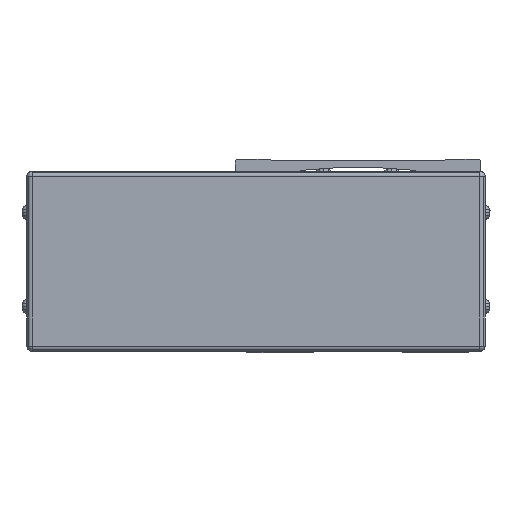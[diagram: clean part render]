
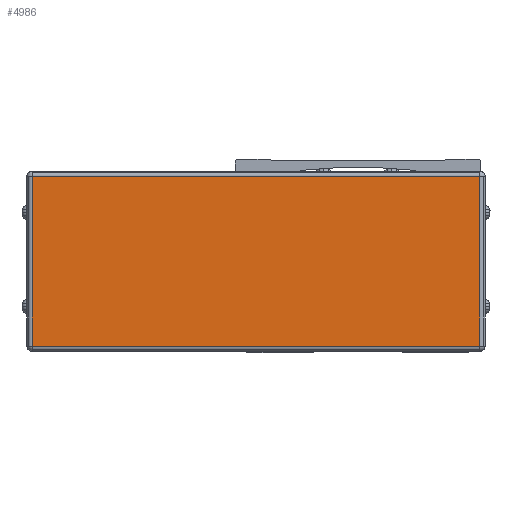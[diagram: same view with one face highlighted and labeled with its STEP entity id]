
A CAD part, front view. The second image highlights one B-rep face of the part: STEP entity #4986.
In plain terms, the highlighted planar face has unit normal (0, -1, 0).
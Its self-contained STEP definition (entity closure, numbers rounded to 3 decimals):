
#4986=ADVANCED_FACE('',(#11276),#11277,.F.);
#11276=FACE_OUTER_BOUND('',#19733,.T.);
#11277=PLANE('',#19734);
#19733=EDGE_LOOP('',(#35374,#35375,#35376,#35377));
#19734=AXIS2_PLACEMENT_3D('',#35378,#35379,#35380);
#35374=ORIENTED_EDGE('',*,*,#52971,.T.);
#35375=ORIENTED_EDGE('',*,*,#53328,.T.);
#35376=ORIENTED_EDGE('',*,*,#52461,.T.);
#35377=ORIENTED_EDGE('',*,*,#53329,.T.);
#35378=CARTESIAN_POINT('',(-39.,-238.778,-42.5));
#35379=DIRECTION('',(0.0,1.0,-0.0));
#35380=DIRECTION('',(-1.0,0.0,0.0));
#52461=EDGE_CURVE('',#63125,#64649,#64651,.T.);
#52971=EDGE_CURVE('',#65350,#65348,#65351,.T.);
#53328=EDGE_CURVE('',#65348,#63125,#65822,.T.);
#53329=EDGE_CURVE('',#64649,#65350,#65823,.T.);
#63125=VERTEX_POINT('',#79499);
#64649=VERTEX_POINT('',#81703);
#64651=LINE('',#81705,#81706);
#65348=VERTEX_POINT('',#82700);
#65350=VERTEX_POINT('',#82702);
#65351=LINE('',#82703,#82704);
#65822=LINE('',#83392,#83393);
#65823=LINE('',#83394,#83395);
#79499=CARTESIAN_POINT('',(46.7,-238.778,24.5));
#81703=CARTESIAN_POINT('',(-124.7,-238.778,24.5));
#81705=CARTESIAN_POINT('',(-39.,-238.778,24.5));
#81706=VECTOR('',#94954,10.0);
#82700=CARTESIAN_POINT('',(46.7,-238.778,-40.5));
#82702=CARTESIAN_POINT('',(-124.7,-238.778,-40.5));
#82703=CARTESIAN_POINT('',(-39.,-238.778,-40.5));
#82704=VECTOR('',#95495,10.0);
#83392=CARTESIAN_POINT('',(46.7,-238.778,-42.5));
#83393=VECTOR('',#95890,10.0);
#83394=CARTESIAN_POINT('',(-124.7,-238.778,-42.5));
#83395=VECTOR('',#95891,10.0);
#94954=DIRECTION('',(-1.0,0.0,0.0));
#95495=DIRECTION('',(1.0,0.0,0.0));
#95890=DIRECTION('',(0.0,0.0,1.0));
#95891=DIRECTION('',(-0.0,0.0,-1.0));
